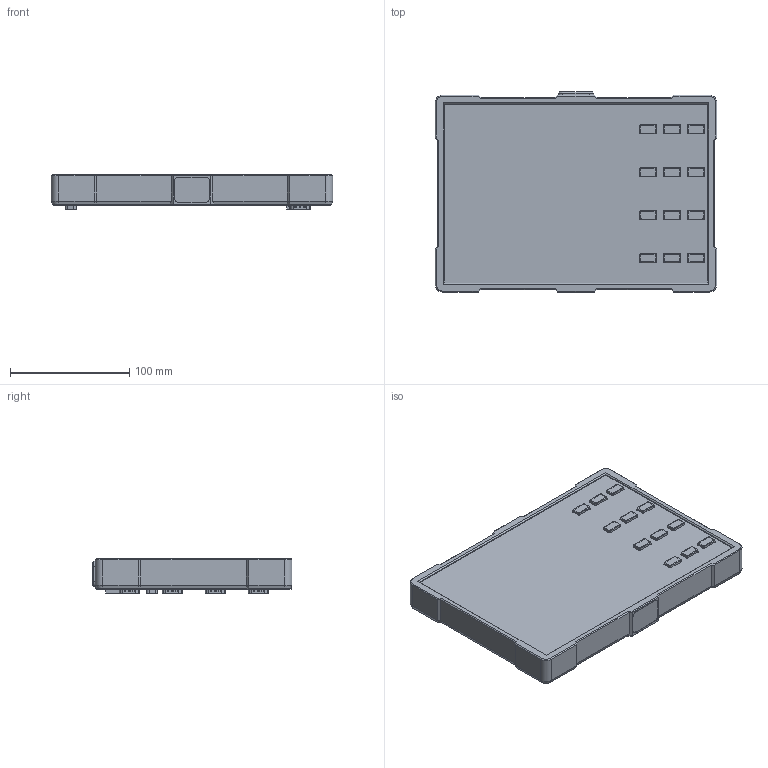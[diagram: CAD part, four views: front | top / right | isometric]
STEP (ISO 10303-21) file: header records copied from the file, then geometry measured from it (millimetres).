
FILE_DESCRIPTION(/* description */ (''),/* implementation_level */ '2;1');
FILE_NAME(/* name */ 'PREDVADECI GUMA.step',/* time_stamp */ '2023-11-14T16:38:50+01:00',/* author */ (''),/* organization */ (''),/* preprocessor_version */ 'ST-DEVELOPER v20',/* originating_system */ 'Autodesk Translation Framework v12.14.0.127',/* authorisation */ '');
FILE_SCHEMA (('AUTOMOTIVE_DESIGN { 1 0 10303 214 3 1 1 }'));
Products named in the file (1): PREDVADECI
Bounding box: 235.8 x 167.5 x 29.22 mm (x, y, z)
Volume: 846088.3 mm3; surface area: 194390.1 mm2
Topology: 2 solids, 27 shells, 3570 faces, 9052 edges, 5693 vertices
Faces by surface type: plane 1191, cylinder 1118, bspline 781, torus 325, sphere 135, cone 20
Full cylindrical faces by diameter (mm): 0.84 x45, 1.04 x45, 1.14 x45, 2.2 x19, 3 x4, 5.035 x3, 5.6 x4, 6.147 x2
Entity records: 157606 total; most frequent: CARTESIAN_POINT 76240, ORIENTED_EDGE 17864, DIRECTION 15453, EDGE_CURVE 8932, VERTEX_POINT 5693, AXIS2_PLACEMENT_3D 5667, LINE 4119, VECTOR 4119
